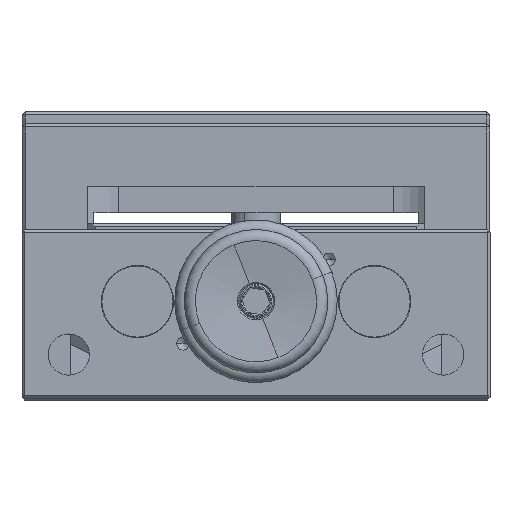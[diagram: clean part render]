
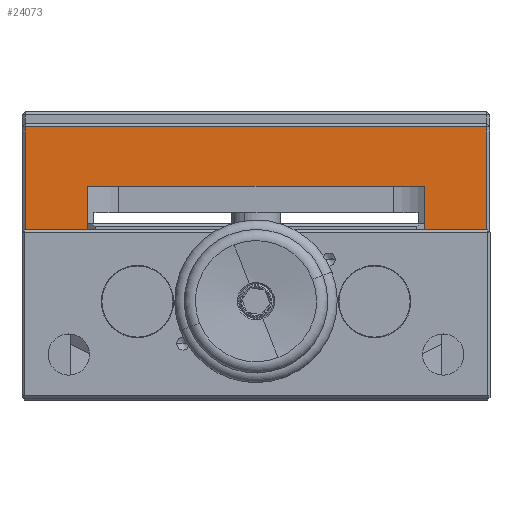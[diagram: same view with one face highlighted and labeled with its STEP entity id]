
A CAD part, top view. The second image highlights one B-rep face of the part: STEP entity #24073.
In plain terms, the highlighted planar face has unit normal (0, 0, 1).
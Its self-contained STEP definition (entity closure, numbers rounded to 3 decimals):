
#121 = EDGE_LOOP ( 'NONE', ( #17894, #35068, #16711, #10012, #14340, #11432, #8285, #3105 ) ) ;
#760 = DIRECTION ( 'NONE',  ( 0., -1., 0. ) ) ;
#1217 = CARTESIAN_POINT ( 'NONE',  ( 37.5, -35.5, 74.5 ) ) ;
#2091 = EDGE_CURVE ( 'NONE', #22009, #28600, #26905, .T. ) ;
#2147 = VERTEX_POINT ( 'NONE', #18092 ) ;
#2825 = VERTEX_POINT ( 'NONE', #17634 ) ;
#3105 = ORIENTED_EDGE ( 'NONE', *, *, #2091, .F. ) ;
#3218 = LINE ( 'NONE', #30245, #10936 ) ;
#4724 = LINE ( 'NONE', #22232, #11503 ) ;
#5529 = CARTESIAN_POINT ( 'NONE',  ( -27., -12., 74.5 ) ) ;
#6142 = CARTESIAN_POINT ( 'NONE',  ( -37., -2.5, 74.5 ) ) ;
#7750 = DIRECTION ( 'NONE',  ( 1., 0., 0. ) ) ;
#8193 = CARTESIAN_POINT ( 'NONE',  ( 27., -35.5, 74.5 ) ) ;
#8285 = ORIENTED_EDGE ( 'NONE', *, *, #18819, .F. ) ;
#8344 = VECTOR ( 'NONE', #25458, 1000. ) ;
#9223 = DIRECTION ( 'NONE',  ( -1., 0., 0. ) ) ;
#9973 = DIRECTION ( 'NONE',  ( 0., 0., 1. ) ) ;
#10012 = ORIENTED_EDGE ( 'NONE', *, *, #36555, .T. ) ;
#10631 = CARTESIAN_POINT ( 'NONE',  ( -26., -35., 74.5 ) ) ;
#10936 = VECTOR ( 'NONE', #12888, 1000. ) ;
#11432 = ORIENTED_EDGE ( 'NONE', *, *, #27250, .T. ) ;
#11503 = VECTOR ( 'NONE', #7750, 1000. ) ;
#11789 = EDGE_CURVE ( 'NONE', #2147, #23919, #4724, .T. ) ;
#11982 = VECTOR ( 'NONE', #13530, 1000. ) ;
#12309 = CARTESIAN_POINT ( 'NONE',  ( -27., -35.5, 74.5 ) ) ;
#12888 = DIRECTION ( 'NONE',  ( 0., 1., 0. ) ) ;
#13088 = LINE ( 'NONE', #25725, #27603 ) ;
#13161 = VECTOR ( 'NONE', #760, 1000. ) ;
#13530 = DIRECTION ( 'NONE',  ( 1., 0., 0. ) ) ;
#14340 = ORIENTED_EDGE ( 'NONE', *, *, #19907, .T. ) ;
#14889 = VECTOR ( 'NONE', #32989, 1000. ) ;
#16711 = ORIENTED_EDGE ( 'NONE', *, *, #33819, .T. ) ;
#17609 = FACE_OUTER_BOUND ( 'NONE', #121, .T. ) ;
#17634 = CARTESIAN_POINT ( 'NONE',  ( -37., -35., 74.5 ) ) ;
#17894 = ORIENTED_EDGE ( 'NONE', *, *, #27369, .F. ) ;
#18092 = CARTESIAN_POINT ( 'NONE',  ( 27., -35., 74.5 ) ) ;
#18819 = EDGE_CURVE ( 'NONE', #28600, #23375, #29480, .T. ) ;
#19187 = VECTOR ( 'NONE', #9223, 1000. ) ;
#19713 = LINE ( 'NONE', #10631, #11982 ) ;
#19907 = EDGE_CURVE ( 'NONE', #21271, #2825, #32126, .T. ) ;
#20761 = CARTESIAN_POINT ( 'NONE',  ( 27., -12., 74.5 ) ) ;
#21271 = VERTEX_POINT ( 'NONE', #6142 ) ;
#22009 = VERTEX_POINT ( 'NONE', #32162 ) ;
#22232 = CARTESIAN_POINT ( 'NONE',  ( 37.5, -35., 74.5 ) ) ;
#23375 = VERTEX_POINT ( 'NONE', #34335 ) ;
#23919 = VERTEX_POINT ( 'NONE', #31034 ) ;
#24073 = ADVANCED_FACE ( 'NONE', ( #17609 ), #27344, .T. ) ;
#25458 = DIRECTION ( 'NONE',  ( 0., 1., 0. ) ) ;
#25725 = CARTESIAN_POINT ( 'NONE',  ( -37.5, -2.5, 74.5 ) ) ;
#26905 = LINE ( 'NONE', #20761, #19187 ) ;
#27250 = EDGE_CURVE ( 'NONE', #2825, #23375, #19713, .T. ) ;
#27344 = PLANE ( 'NONE',  #30717 ) ;
#27369 = EDGE_CURVE ( 'NONE', #2147, #22009, #31469, .T. ) ;
#27603 = VECTOR ( 'NONE', #28640, 1000. ) ;
#28600 = VERTEX_POINT ( 'NONE', #5529 ) ;
#28640 = DIRECTION ( 'NONE',  ( -1., 0., 0. ) ) ;
#29480 = LINE ( 'NONE', #12309, #13161 ) ;
#30088 = CARTESIAN_POINT ( 'NONE',  ( -37., -35.5, 74.5 ) ) ;
#30245 = CARTESIAN_POINT ( 'NONE',  ( 37., -2., 74.5 ) ) ;
#30251 = DIRECTION ( 'NONE',  ( 0., 1., 0. ) ) ;
#30717 = AXIS2_PLACEMENT_3D ( 'NONE', #1217, #9973, #30251 ) ;
#30912 = VERTEX_POINT ( 'NONE', #32714 ) ;
#31034 = CARTESIAN_POINT ( 'NONE',  ( 37., -35., 74.5 ) ) ;
#31469 = LINE ( 'NONE', #8193, #8344 ) ;
#32126 = LINE ( 'NONE', #30088, #14889 ) ;
#32162 = CARTESIAN_POINT ( 'NONE',  ( 27., -12., 74.5 ) ) ;
#32714 = CARTESIAN_POINT ( 'NONE',  ( 37., -2.5, 74.5 ) ) ;
#32989 = DIRECTION ( 'NONE',  ( 0., -1., 0. ) ) ;
#33819 = EDGE_CURVE ( 'NONE', #23919, #30912, #3218, .T. ) ;
#34335 = CARTESIAN_POINT ( 'NONE',  ( -27., -35., 74.5 ) ) ;
#35068 = ORIENTED_EDGE ( 'NONE', *, *, #11789, .T. ) ;
#36555 = EDGE_CURVE ( 'NONE', #30912, #21271, #13088, .T. ) ;
